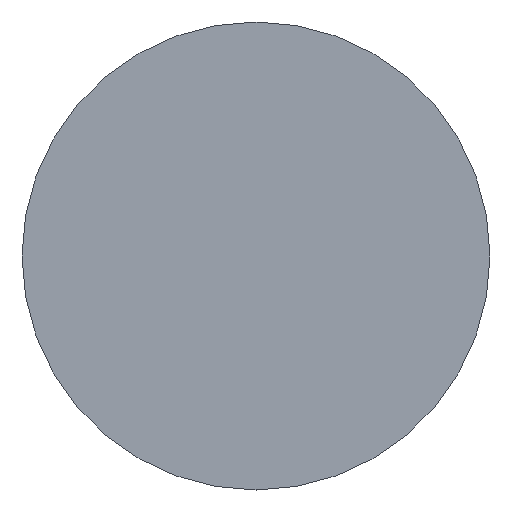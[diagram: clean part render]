
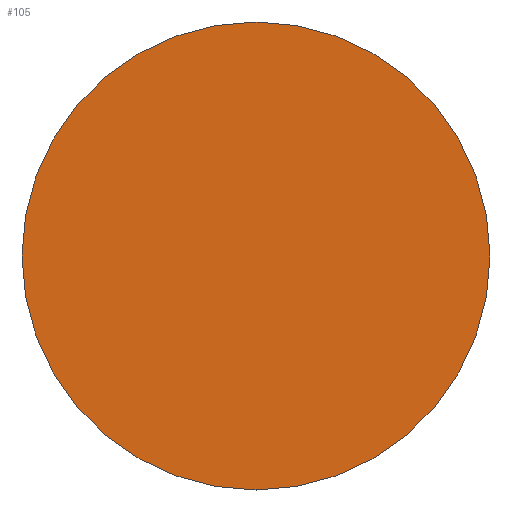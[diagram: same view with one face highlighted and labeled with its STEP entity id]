
A CAD part, left-side view. The second image highlights one B-rep face of the part: STEP entity #105.
In plain terms, the highlighted planar face has unit normal (-1, 0, 0).
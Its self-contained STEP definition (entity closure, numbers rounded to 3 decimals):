
#22 = VERTEX_POINT('',#23);
#23 = CARTESIAN_POINT('',(0.,10.,0.));
#32 = CYLINDRICAL_SURFACE('',#33,10.);
#33 = AXIS2_PLACEMENT_3D('',#34,#35,#36);
#34 = CARTESIAN_POINT('',(0.,0.,0.));
#35 = DIRECTION('',(-1.,0.,0.));
#36 = DIRECTION('',(0.,1.,0.));
#79 = EDGE_CURVE('',#22,#22,#80,.T.);
#80 = SURFACE_CURVE('',#81,(#86,#93),.PCURVE_S1.);
#81 = CIRCLE('',#82,10.);
#82 = AXIS2_PLACEMENT_3D('',#83,#84,#85);
#83 = CARTESIAN_POINT('',(0.,0.,0.));
#84 = DIRECTION('',(1.,0.,0.));
#85 = DIRECTION('',(0.,1.,0.));
#86 = PCURVE('',#32,#87);
#87 = DEFINITIONAL_REPRESENTATION('',(#88),#92);
#88 = LINE('',#89,#90);
#89 = CARTESIAN_POINT('',(-0.,0.));
#90 = VECTOR('',#91,1.);
#91 = DIRECTION('',(-1.,0.));
#92 = ( GEOMETRIC_REPRESENTATION_CONTEXT(2) 
PARAMETRIC_REPRESENTATION_CONTEXT() REPRESENTATION_CONTEXT('2D SPACE',''
  ) );
#93 = PCURVE('',#94,#99);
#94 = PLANE('',#95);
#95 = AXIS2_PLACEMENT_3D('',#96,#97,#98);
#96 = CARTESIAN_POINT('',(0.,0.,
    0.));
#97 = DIRECTION('',(1.,0.,0.));
#98 = DIRECTION('',(0.,0.,1.));
#99 = DEFINITIONAL_REPRESENTATION('',(#100),#104);
#100 = CIRCLE('',#101,10.);
#101 = AXIS2_PLACEMENT_2D('',#102,#103);
#102 = CARTESIAN_POINT('',(0.,0.));
#103 = DIRECTION('',(0.,-1.));
#104 = ( GEOMETRIC_REPRESENTATION_CONTEXT(2) 
PARAMETRIC_REPRESENTATION_CONTEXT() REPRESENTATION_CONTEXT('2D SPACE',''
  ) );
#105 = ADVANCED_FACE('',(#106),#94,.F.);
#106 = FACE_BOUND('',#107,.F.);
#107 = EDGE_LOOP('',(#108));
#108 = ORIENTED_EDGE('',*,*,#79,.T.);
